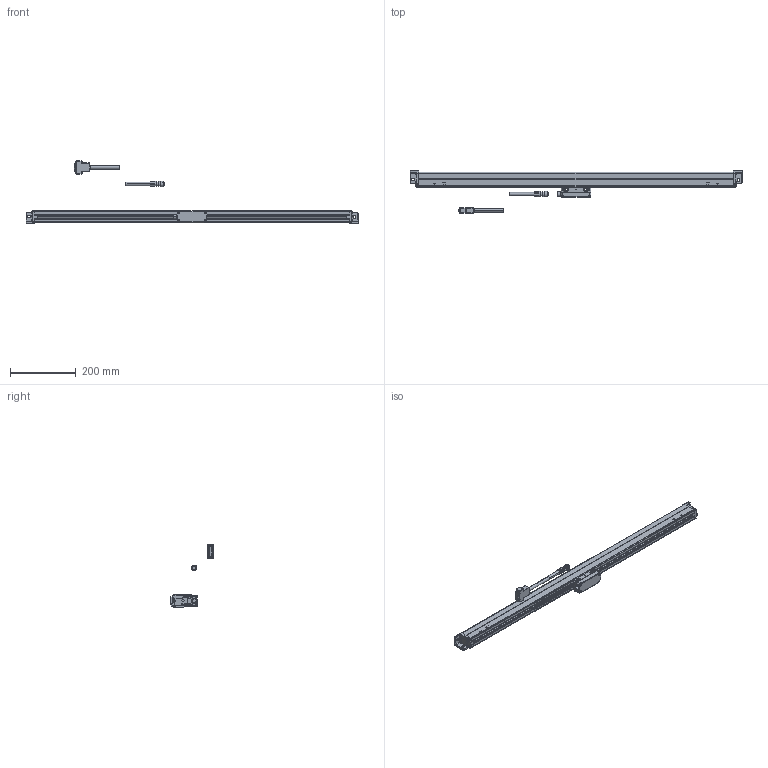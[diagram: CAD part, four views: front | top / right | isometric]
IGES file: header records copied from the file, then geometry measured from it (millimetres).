
Start section: Elysium IGES Interface
Global section: file name: 74H\\Utsu119s\kiyo_cad\data\3D\AT103\HP掲載用_201710\IGES\AT103_AT203-800.igs; native system: Creo Elements/Direct Modeling 18.1B  29-Sep-2012; preprocessor: Creo Element/Direct IGES_3D V2.2; author: Unknown; organization: Unknown; date: 20180105.141618; units: millimetre
Bounding box: 1008 x 129 x 190.1 mm (x, y, z)
Volume: 1598737 mm3; surface area: 224023.8 mm2
Topology: 4 solids, 8 shells, 1072 faces, 2607 edges, 1597 vertices
Faces by surface type: bspline 1072
